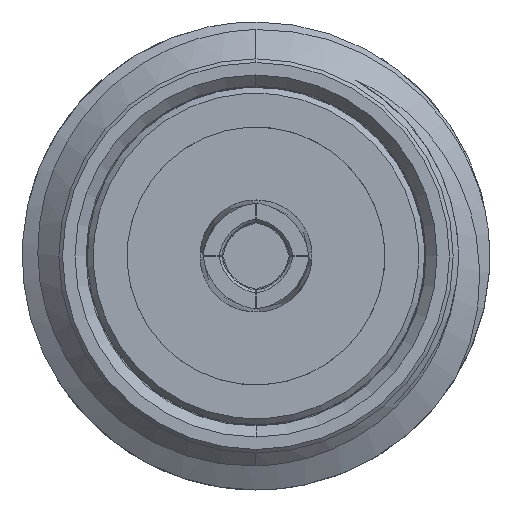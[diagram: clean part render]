
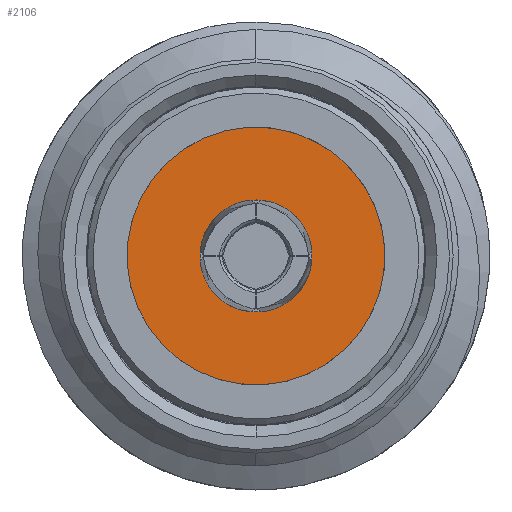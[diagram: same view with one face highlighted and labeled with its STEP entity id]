
A CAD part, left-side view. The second image highlights one B-rep face of the part: STEP entity #2106.
In plain terms, the highlighted planar face has unit normal (-1, 0, 0).
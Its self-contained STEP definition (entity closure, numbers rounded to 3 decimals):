
#104 = VERTEX_POINT ( 'NONE', #2308 ) ;
#172 = CARTESIAN_POINT ( 'NONE',  ( 0.221, 0., 0. ) ) ;
#1535 = EDGE_CURVE ( 'NONE', #104, #104, #2706, .T. ) ;
#1725 = CIRCLE ( 'NONE', #5404, 1.75 ) ;
#1871 = ORIENTED_EDGE ( 'NONE', *, *, #1535, .T. ) ;
#1980 = FACE_OUTER_BOUND ( 'NONE', #2701, .T. ) ;
#2106 = ADVANCED_FACE ( 'NONE', ( #3713, #1980 ), #4632, .T. ) ;
#2308 = CARTESIAN_POINT ( 'NONE',  ( 0.221, 0., 0.76 ) ) ;
#2381 = DIRECTION ( 'NONE',  ( 0., 0., 1. ) ) ;
#2609 = EDGE_CURVE ( 'NONE', #5367, #5367, #1725, .T. ) ;
#2701 = EDGE_LOOP ( 'NONE', ( #4058 ) ) ;
#2706 = CIRCLE ( 'NONE', #2879, 0.76 ) ;
#2879 = AXIS2_PLACEMENT_3D ( 'NONE', #172, #5026, #3363 ) ;
#2916 = AXIS2_PLACEMENT_3D ( 'NONE', #4148, #2937, #2381 ) ;
#2937 = DIRECTION ( 'NONE',  ( -1., 0., 0. ) ) ;
#3189 = DIRECTION ( 'NONE',  ( 0., 0., 1. ) ) ;
#3363 = DIRECTION ( 'NONE',  ( 0., 0., 1. ) ) ;
#3459 = EDGE_LOOP ( 'NONE', ( #1871 ) ) ;
#3713 = FACE_BOUND ( 'NONE', #3459, .T. ) ;
#4058 = ORIENTED_EDGE ( 'NONE', *, *, #2609, .F. ) ;
#4078 = DIRECTION ( 'NONE',  ( 1., 0., 0. ) ) ;
#4125 = CARTESIAN_POINT ( 'NONE',  ( 0.221, 0., 1.75 ) ) ;
#4148 = CARTESIAN_POINT ( 'NONE',  ( 0.221, 2.499, 0. ) ) ;
#4632 = PLANE ( 'NONE',  #2916 ) ;
#5026 = DIRECTION ( 'NONE',  ( 1., 0., 0. ) ) ;
#5317 = CARTESIAN_POINT ( 'NONE',  ( 0.221, 0., 0. ) ) ;
#5367 = VERTEX_POINT ( 'NONE', #4125 ) ;
#5404 = AXIS2_PLACEMENT_3D ( 'NONE', #5317, #4078, #3189 ) ;
